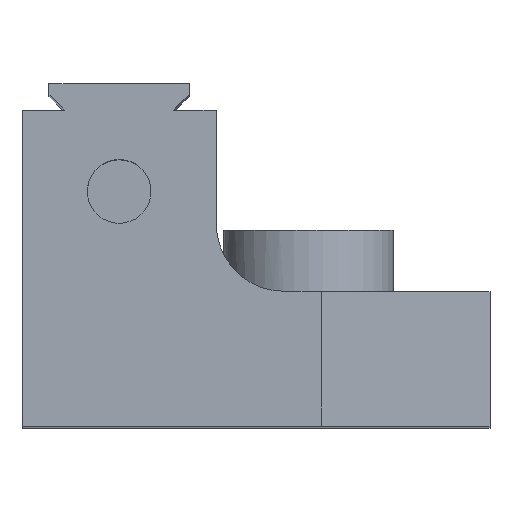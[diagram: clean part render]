
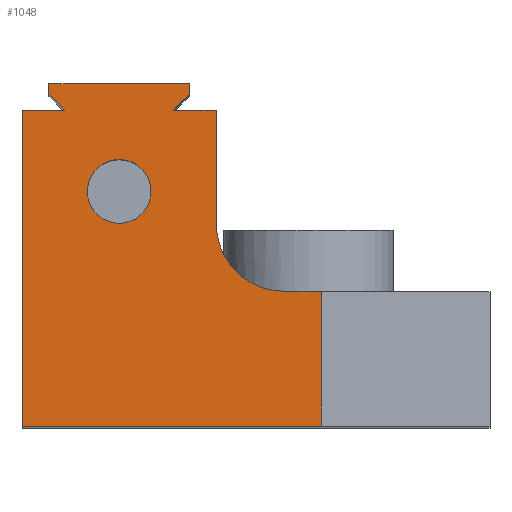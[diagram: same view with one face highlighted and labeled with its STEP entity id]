
A CAD part, top view. The second image highlights one B-rep face of the part: STEP entity #1048.
In plain terms, the highlighted planar face has unit normal (0, 0, 1).
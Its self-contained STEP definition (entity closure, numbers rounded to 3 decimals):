
#17 = EDGE_CURVE ( 'NONE', #1737, #440, #527, .T. ) ;
#96 = DIRECTION ( 'NONE',  ( 0.707, 0.707, 0. ) ) ;
#105 = CARTESIAN_POINT ( 'NONE',  ( 14.264, 29.758, 125.73 ) ) ;
#108 = VECTOR ( 'NONE', #1145, 1000. ) ;
#109 = CARTESIAN_POINT ( 'NONE',  ( 9.144, 22.098, 125.73 ) ) ;
#112 = DIRECTION ( 'NONE',  ( -1., 0., 0. ) ) ;
#115 = ORIENTED_EDGE ( 'NONE', *, *, #695, .T. ) ;
#129 = DIRECTION ( 'NONE',  ( 0., -1., 0. ) ) ;
#160 = ORIENTED_EDGE ( 'NONE', *, *, #1143, .T. ) ;
#187 = AXIS2_PLACEMENT_3D ( 'NONE', #1255, #544, #1806 ) ;
#204 = VERTEX_POINT ( 'NONE', #105 ) ;
#223 = LINE ( 'NONE', #1254, #343 ) ;
#241 = VECTOR ( 'NONE', #1094, 1000. ) ;
#272 = CIRCLE ( 'NONE', #929, 3. ) ;
#289 = VERTEX_POINT ( 'NONE', #1000 ) ;
#308 = EDGE_CURVE ( 'NONE', #1256, #204, #223, .T. ) ;
#334 = ORIENTED_EDGE ( 'NONE', *, *, #1791, .T. ) ;
#343 = VECTOR ( 'NONE', #112, 1000. ) ;
#350 = DIRECTION ( 'NONE',  ( -1., 0., 0. ) ) ;
#365 = VERTEX_POINT ( 'NONE', #1276 ) ;
#370 = VECTOR ( 'NONE', #350, 1000. ) ;
#377 = EDGE_CURVE ( 'NONE', #1205, #674, #1483, .T. ) ;
#415 = VERTEX_POINT ( 'NONE', #1575 ) ;
#419 = CARTESIAN_POINT ( 'NONE',  ( 44.069, 0., 125.73 ) ) ;
#420 = VERTEX_POINT ( 'NONE', #607 ) ;
#423 = CARTESIAN_POINT ( 'NONE',  ( 4.024, 29.758, 125.73 ) ) ;
#440 = VERTEX_POINT ( 'NONE', #1452 ) ;
#479 = LINE ( 'NONE', #419, #1196 ) ;
#489 = VECTOR ( 'NONE', #96, 1000. ) ;
#508 = DIRECTION ( 'NONE',  ( 0., -1., 0. ) ) ;
#511 = CIRCLE ( 'NONE', #768, 3. ) ;
#515 = EDGE_CURVE ( 'NONE', #415, #1737, #1544, .T. ) ;
#523 = VECTOR ( 'NONE', #764, 1000. ) ;
#524 = CIRCLE ( 'NONE', #889, 6.35 ) ;
#527 = LINE ( 'NONE', #1227, #1708 ) ;
#531 = ORIENTED_EDGE ( 'NONE', *, *, #377, .T. ) ;
#536 = PLANE ( 'NONE',  #187 ) ;
#544 = DIRECTION ( 'NONE',  ( 0., 0., 1. ) ) ;
#556 = CARTESIAN_POINT ( 'NONE',  ( 15.748, 32.258, 125.73 ) ) ;
#566 = ORIENTED_EDGE ( 'NONE', *, *, #1341, .T. ) ;
#575 = CARTESIAN_POINT ( 'NONE',  ( 0., 0., 125.73 ) ) ;
#585 = ORIENTED_EDGE ( 'NONE', *, *, #1625, .T. ) ;
#599 = VERTEX_POINT ( 'NONE', #1610 ) ;
#607 = CARTESIAN_POINT ( 'NONE',  ( 28.194, 12.7, 125.73 ) ) ;
#642 = LINE ( 'NONE', #556, #241 ) ;
#646 = EDGE_CURVE ( 'NONE', #289, #1344, #272, .T. ) ;
#652 = CARTESIAN_POINT ( 'NONE',  ( 44.069, 12.7, 125.73 ) ) ;
#672 = EDGE_CURVE ( 'NONE', #1685, #1256, #1704, .T. ) ;
#674 = VERTEX_POINT ( 'NONE', #1253 ) ;
#679 = LINE ( 'NONE', #1576, #1723 ) ;
#680 = CARTESIAN_POINT ( 'NONE',  ( 18.288, 29.758, 125.73 ) ) ;
#695 = EDGE_CURVE ( 'NONE', #1560, #1685, #524, .T. ) ;
#707 = DIRECTION ( 'NONE',  ( 0.707, -0.707, 0. ) ) ;
#714 = LINE ( 'NONE', #1387, #489 ) ;
#738 = ORIENTED_EDGE ( 'NONE', *, *, #1612, .F. ) ;
#748 = EDGE_CURVE ( 'NONE', #674, #365, #479, .T. ) ;
#761 = LINE ( 'NONE', #915, #1204 ) ;
#764 = DIRECTION ( 'NONE',  ( -1., 0., 0. ) ) ;
#768 = AXIS2_PLACEMENT_3D ( 'NONE', #109, #1402, #1817 ) ;
#818 = DIRECTION ( 'NONE',  ( 0., 0., 1. ) ) ;
#838 = VERTEX_POINT ( 'NONE', #1581 ) ;
#863 = DIRECTION ( 'NONE',  ( 1., 0., 0. ) ) ;
#889 = AXIS2_PLACEMENT_3D ( 'NONE', #1259, #1137, #1572 ) ;
#915 = CARTESIAN_POINT ( 'NONE',  ( 28.194, 0., 125.73 ) ) ;
#929 = AXIS2_PLACEMENT_3D ( 'NONE', #1654, #818, #1528 ) ;
#944 = ORIENTED_EDGE ( 'NONE', *, *, #1109, .T. ) ;
#1000 = CARTESIAN_POINT ( 'NONE',  ( 6.144, 22.098, 125.73 ) ) ;
#1048 = ADVANCED_FACE ( 'NONE', ( #1499, #1807 ), #536, .T. ) ;
#1086 = LINE ( 'NONE', #423, #1684 ) ;
#1091 = CARTESIAN_POINT ( 'NONE',  ( 2.54, 32.258, 125.73 ) ) ;
#1094 = DIRECTION ( 'NONE',  ( 0., 1., 0. ) ) ;
#1109 = EDGE_CURVE ( 'NONE', #599, #415, #642, .T. ) ;
#1122 = CARTESIAN_POINT ( 'NONE',  ( 18.288, 19.038, 125.73 ) ) ;
#1137 = DIRECTION ( 'NONE',  ( 0., 0., -1. ) ) ;
#1143 = EDGE_CURVE ( 'NONE', #838, #1205, #679, .T. ) ;
#1145 = DIRECTION ( 'NONE',  ( 0., 1., 0. ) ) ;
#1174 = ORIENTED_EDGE ( 'NONE', *, *, #17, .T. ) ;
#1196 = VECTOR ( 'NONE', #863, 1000. ) ;
#1204 = VECTOR ( 'NONE', #1766, 1000. ) ;
#1205 = VERTEX_POINT ( 'NONE', #1865 ) ;
#1227 = CARTESIAN_POINT ( 'NONE',  ( 2.54, 32.258, 125.73 ) ) ;
#1253 = CARTESIAN_POINT ( 'NONE',  ( 0., 0., 125.73 ) ) ;
#1254 = CARTESIAN_POINT ( 'NONE',  ( 14.264, 29.758, 125.73 ) ) ;
#1255 = CARTESIAN_POINT ( 'NONE',  ( 24.638, 19.05, 125.73 ) ) ;
#1256 = VERTEX_POINT ( 'NONE', #1732 ) ;
#1259 = CARTESIAN_POINT ( 'NONE',  ( 24.638, 19.05, 125.73 ) ) ;
#1276 = CARTESIAN_POINT ( 'NONE',  ( 28.194, 0., 125.73 ) ) ;
#1341 = EDGE_CURVE ( 'NONE', #420, #1560, #1508, .T. ) ;
#1344 = VERTEX_POINT ( 'NONE', #1622 ) ;
#1365 = EDGE_CURVE ( 'NONE', #365, #420, #761, .T. ) ;
#1387 = CARTESIAN_POINT ( 'NONE',  ( 15.748, 31.242, 125.73 ) ) ;
#1402 = DIRECTION ( 'NONE',  ( 0., 0., 1. ) ) ;
#1432 = DIRECTION ( 'NONE',  ( -1., 0., 0. ) ) ;
#1452 = CARTESIAN_POINT ( 'NONE',  ( 2.54, 31.242, 125.73 ) ) ;
#1483 = LINE ( 'NONE', #575, #1771 ) ;
#1497 = ORIENTED_EDGE ( 'NONE', *, *, #748, .T. ) ;
#1499 = FACE_BOUND ( 'NONE', #1783, .T. ) ;
#1508 = LINE ( 'NONE', #652, #370 ) ;
#1528 = DIRECTION ( 'NONE',  ( 1., 0., 0. ) ) ;
#1544 = LINE ( 'NONE', #1091, #523 ) ;
#1560 = VERTEX_POINT ( 'NONE', #1789 ) ;
#1572 = DIRECTION ( 'NONE',  ( 1., 0., 0. ) ) ;
#1575 = CARTESIAN_POINT ( 'NONE',  ( 15.748, 32.258, 125.73 ) ) ;
#1576 = CARTESIAN_POINT ( 'NONE',  ( 0., 29.758, 125.73 ) ) ;
#1580 = CARTESIAN_POINT ( 'NONE',  ( 2.54, 32.258, 125.73 ) ) ;
#1581 = CARTESIAN_POINT ( 'NONE',  ( 4.024, 29.758, 125.73 ) ) ;
#1610 = CARTESIAN_POINT ( 'NONE',  ( 15.748, 31.242, 125.73 ) ) ;
#1612 = EDGE_CURVE ( 'NONE', #1344, #289, #511, .T. ) ;
#1622 = CARTESIAN_POINT ( 'NONE',  ( 12.144, 22.098, 125.73 ) ) ;
#1623 = EDGE_LOOP ( 'NONE', ( #1869, #566, #115, #1711, #1823, #585, #944, #1756, #1174, #334, #160, #531, #1497 ) ) ;
#1625 = EDGE_CURVE ( 'NONE', #204, #599, #714, .T. ) ;
#1654 = CARTESIAN_POINT ( 'NONE',  ( 9.144, 22.098, 125.73 ) ) ;
#1681 = ORIENTED_EDGE ( 'NONE', *, *, #646, .F. ) ;
#1684 = VECTOR ( 'NONE', #707, 1000. ) ;
#1685 = VERTEX_POINT ( 'NONE', #1122 ) ;
#1704 = LINE ( 'NONE', #680, #108 ) ;
#1708 = VECTOR ( 'NONE', #508, 1000. ) ;
#1711 = ORIENTED_EDGE ( 'NONE', *, *, #672, .T. ) ;
#1723 = VECTOR ( 'NONE', #1432, 1000. ) ;
#1732 = CARTESIAN_POINT ( 'NONE',  ( 18.288, 29.758, 125.73 ) ) ;
#1737 = VERTEX_POINT ( 'NONE', #1580 ) ;
#1756 = ORIENTED_EDGE ( 'NONE', *, *, #515, .T. ) ;
#1766 = DIRECTION ( 'NONE',  ( 0., 1., 0. ) ) ;
#1771 = VECTOR ( 'NONE', #129, 1000. ) ;
#1783 = EDGE_LOOP ( 'NONE', ( #738, #1681 ) ) ;
#1789 = CARTESIAN_POINT ( 'NONE',  ( 24.638, 12.7, 125.73 ) ) ;
#1791 = EDGE_CURVE ( 'NONE', #440, #838, #1086, .T. ) ;
#1806 = DIRECTION ( 'NONE',  ( 1., 0., 0. ) ) ;
#1807 = FACE_OUTER_BOUND ( 'NONE', #1623, .T. ) ;
#1817 = DIRECTION ( 'NONE',  ( 1., 0., 0. ) ) ;
#1823 = ORIENTED_EDGE ( 'NONE', *, *, #308, .T. ) ;
#1865 = CARTESIAN_POINT ( 'NONE',  ( 0., 29.758, 125.73 ) ) ;
#1869 = ORIENTED_EDGE ( 'NONE', *, *, #1365, .T. ) ;
